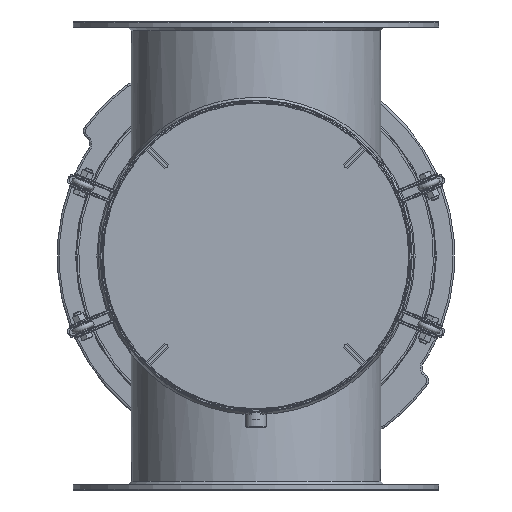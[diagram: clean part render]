
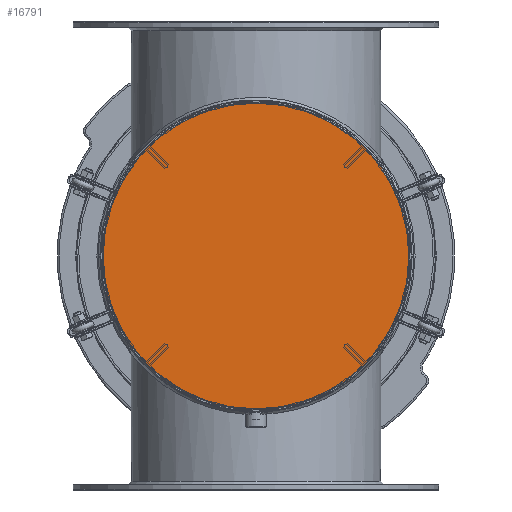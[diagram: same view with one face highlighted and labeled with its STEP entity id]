
A CAD part, front view. The second image highlights one B-rep face of the part: STEP entity #16791.
In plain terms, the highlighted planar face has unit normal (0, -1, 0).
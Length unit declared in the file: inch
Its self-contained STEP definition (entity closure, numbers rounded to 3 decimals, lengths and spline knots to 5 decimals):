
#1554=CIRCLE('',#18000,9.825);
#3402=FACE_OUTER_BOUND('',#4537,.T.);
#4537=EDGE_LOOP('',(#12061));
#7873=VERTEX_POINT('',#29987);
#9424=EDGE_CURVE('',#7873,#7873,#1554,.T.);
#12061=ORIENTED_EDGE('',*,*,#9424,.F.);
#16414=PLANE('',#18003);
#16791=ADVANCED_FACE('',(#3402),#16414,.F.);
#18000=AXIS2_PLACEMENT_3D('',#29988,#20671,#20672);
#18003=AXIS2_PLACEMENT_3D('',#29992,#20677,#20678);
#20671=DIRECTION('center_axis',(0.,1.,0.));
#20672=DIRECTION('ref_axis',(1.,0.,0.));
#20677=DIRECTION('center_axis',(0.,1.,0.));
#20678=DIRECTION('ref_axis',(0.,0.,1.));
#29987=CARTESIAN_POINT('',(-9.825,0.,0.));
#29988=CARTESIAN_POINT('Origin',(0.,0.,0.));
#29992=CARTESIAN_POINT('Origin',(0.,0.,0.));
